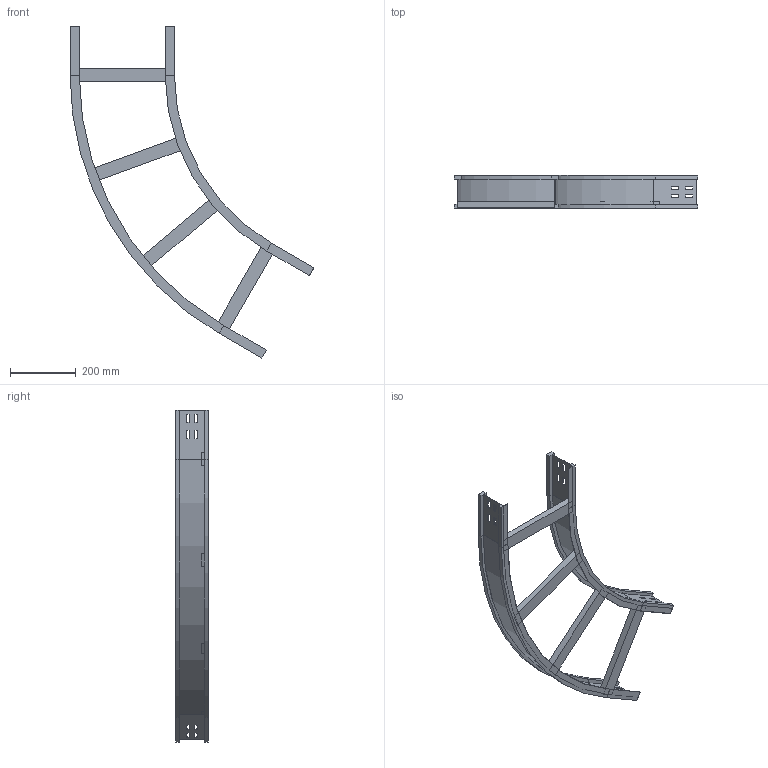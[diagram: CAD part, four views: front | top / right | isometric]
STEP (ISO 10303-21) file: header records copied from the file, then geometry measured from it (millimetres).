
FILE_DESCRIPTION (( 'STEP AP214' ), '1' );
FILE_NAME ('13S6D300.step', '2025-02-21T16:06:51', ( '' ), ( '' ), 'SwSTEP 2.0', 'SolidWorks 2023', '' );
FILE_SCHEMA (( 'AUTOMOTIVE_DESIGN' ));
Length unit declared in the file: millimetre
Products named in the file (4): 13S6D300; LONGH.INTERNO 60°_H100_R600; LONGH.ESTERNO 60°_H100_R600+300; TRAVERSINO_300
Assembly tree (6 placements, depth 2):
  13S6D300
    LONGH.INTERNO 60°_H100_R600
    LONGH.ESTERNO 60°_H100_R600+300
    TRAVERSINO_300  x4
Bounding box: 743.4 x 100 x 1012.22 mm (x, y, z)
Volume: 2107944.8 mm3; surface area: 791507.5 mm2
Topology: 6 solids, 6 shells, 164 faces, 408 edges, 256 vertices
Faces by surface type: plane 152, cylinder 12
Entity records: 4485 total; most frequent: CARTESIAN_POINT 759, ORIENTED_EDGE 744, DIRECTION 706, EDGE_CURVE 372, VECTOR 348, LINE 348, VERTEX_POINT 232, AXIS2_PLACEMENT_3D 179
